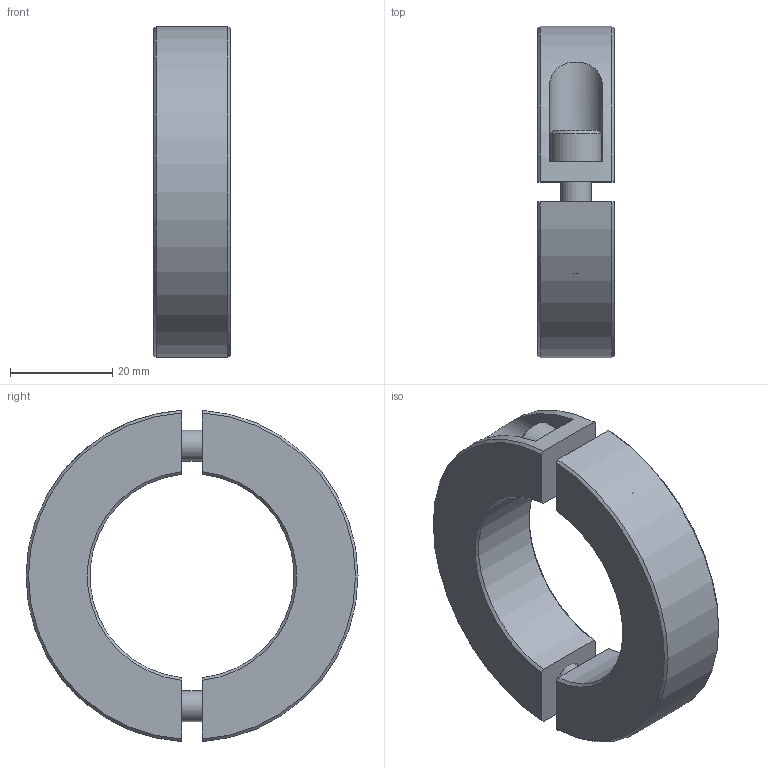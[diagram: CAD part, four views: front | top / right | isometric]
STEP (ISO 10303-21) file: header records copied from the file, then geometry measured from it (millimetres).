
FILE_DESCRIPTION(/* description */ ('STEP AP214'),/* implementation_level */ '2;1');
FILE_NAME(/* name */ 'Split Shaft Collar_ Aluminum GN 707.2-65-B40-AL',/* time_stamp */ '2024-06-10T15:27:09+02:00',/* author */ ('License CC BY-ND 4.0'),/* organization */ ('CADENAS'),/* preprocessor_version */ 'ST-DEVELOPER v19.3',/* originating_system */ 'PARTsolutions',/* authorisation */ ' ');
FILE_SCHEMA (('AUTOMOTIVE_DESIGN {1 0 10303 214 3 1 1}'));
Length unit declared in the file: millimetre
Products named in the file (1): Split Shaft Collar, Aluminum GN 707.2-65-B40-AL
Bounding box: 15 x 65 x 64.88 mm (x, y, z)
Volume: 27484.8 mm3; surface area: 10850 mm2
Topology: 1 solids, 3 shells, 74 faces, 172 edges, 110 vertices
Faces by surface type: plane 44, cone 16, cylinder 14
Full cylindrical faces by diameter (mm): 4.917 x2, 6 x2, 6.3 x2, 10 x2
Entity records: 2518 total; most frequent: CARTESIAN_POINT 393, DIRECTION 332, ORIENTED_EDGE 292, EDGE_CURVE 146, AXIS2_PLACEMENT_3D 129, VERTEX_POINT 104, FACE_BOUND 102, EDGE_LOOP 98
